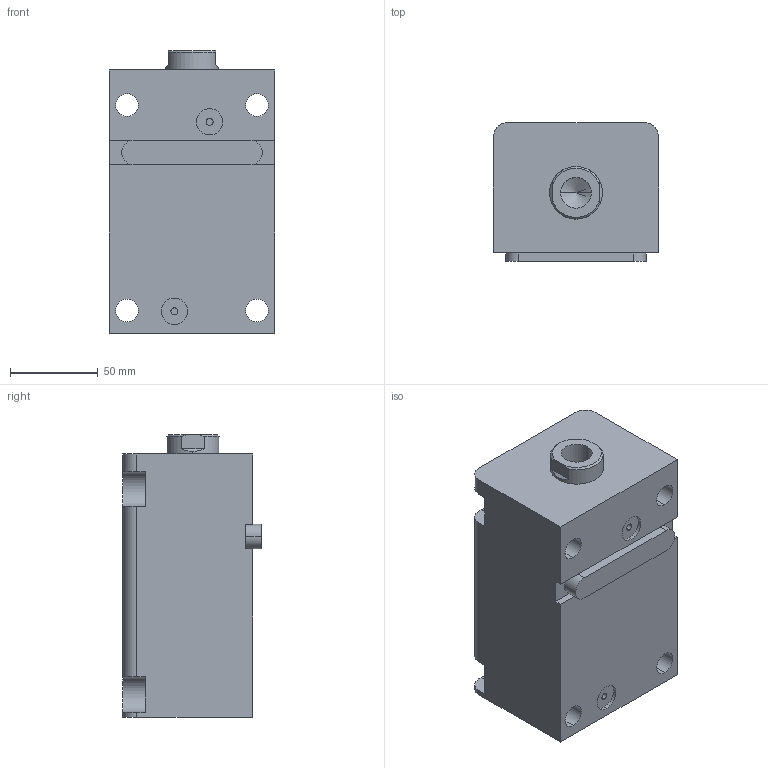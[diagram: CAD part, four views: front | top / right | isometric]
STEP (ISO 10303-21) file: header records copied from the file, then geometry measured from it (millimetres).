
FILE_DESCRIPTION (( 'STEP AP203' ), '1' );
FILE_NAME ('HTB-LAM50-90N.STEP', '2023-03-20T01:12:54', ( '微软用户' ), ( '微软中国' ), 'SwSTEP 2.0', 'SolidWorks 2012', '' );
FILE_SCHEMA (( 'CONFIG_CONTROL_DESIGN' ));
Length unit declared in the file: millimetre
Products named in the file (4): HTB-LAM50-90N; HTB-LWM50-瑩; HTB-LAM50-90N活塞杆; HTB-LAM50-90掛极
Assembly tree (3 placements, depth 2):
  HTB-LAM50-90N
    HTB-LAM50-90掛极
    HTB-LAM50-90N活塞杆
    HTB-LWM50-瑩
Bounding box: 94 x 79 x 161 mm (x, y, z)
Volume: 880752.1 mm3; surface area: 122073 mm2
Topology: 3 solids, 3 shells, 86 faces, 213 edges, 139 vertices
Faces by surface type: cylinder 39, plane 39, torus 4, cone 4
Entity records: 3001 total; most frequent: DIRECTION 475, CARTESIAN_POINT 470, ORIENTED_EDGE 422, EDGE_CURVE 211, AXIS2_PLACEMENT_3D 180, VERTEX_POINT 139, VECTOR 115, LINE 115
